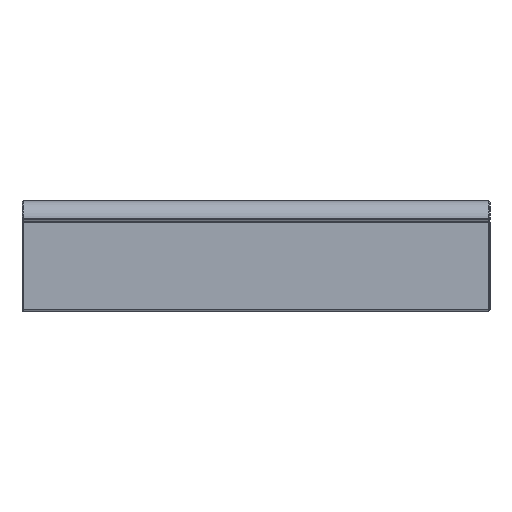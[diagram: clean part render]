
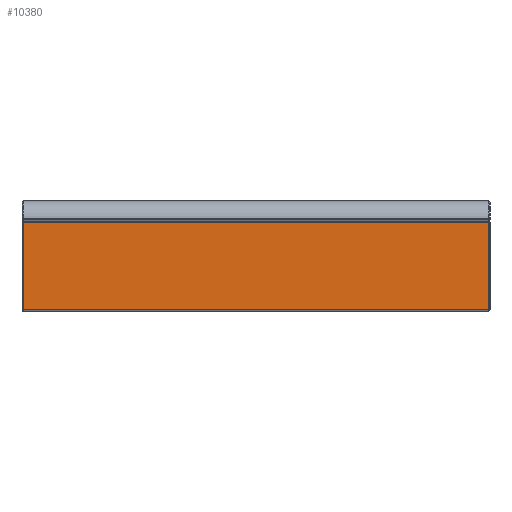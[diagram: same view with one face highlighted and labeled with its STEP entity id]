
A CAD part, left-side view. The second image highlights one B-rep face of the part: STEP entity #10380.
In plain terms, the highlighted planar face has unit normal (-1, 0, 0).
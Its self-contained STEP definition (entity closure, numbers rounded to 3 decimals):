
#2013=DIRECTION('',(0.,0.,1.));
#2014=VECTOR('',#2013,107.9);
#2015=CARTESIAN_POINT('',(-547.,576.5,-66.5));
#2016=LINE('',#2015,#2014);
#2020=DIRECTION('',(0.,1.,0.));
#2021=VECTOR('',#2020,575.);
#2022=CARTESIAN_POINT('',(-547.,1.5,41.4));
#2023=LINE('',#2022,#2021);
#2027=DIRECTION('',(0.,0.,-1.));
#2028=VECTOR('',#2027,107.9);
#2029=CARTESIAN_POINT('',(-547.,1.5,41.4));
#2030=LINE('',#2029,#2028);
#2034=DIRECTION('',(0.,-1.,0.));
#2035=VECTOR('',#2034,575.);
#2036=CARTESIAN_POINT('',(-547.,576.5,-66.5));
#2037=LINE('',#2036,#2035);
#2041=CARTESIAN_POINT('',(-547.,576.5,41.4));
#7821=CARTESIAN_POINT('',(-547.,1.5,41.4));
#7822=CARTESIAN_POINT('',(-547.,1.5,-66.5));
#7823=VERTEX_POINT('',#7821);
#7824=VERTEX_POINT('',#7822);
#7825=CARTESIAN_POINT('',(-547.,576.5,-66.5));
#7826=VERTEX_POINT('',#7825);
#7864=VERTEX_POINT('',#2041);
#10367=CARTESIAN_POINT('',(-547.,0.,-68.));
#10368=DIRECTION('',(-1.,0.,0.));
#10369=DIRECTION('',(0.,0.,1.));
#10370=AXIS2_PLACEMENT_3D('',#10367,#10368,#10369);
#10371=PLANE('',#10370);
#10373=ORIENTED_EDGE('',*,*,#10372,.T.);
#10375=ORIENTED_EDGE('',*,*,#10374,.F.);
#10376=ORIENTED_EDGE('',*,*,#10334,.T.);
#10377=ORIENTED_EDGE('',*,*,#10358,.F.);
#10378=EDGE_LOOP('',(#10373,#10375,#10376,#10377));
#10379=FACE_OUTER_BOUND('',#10378,.F.);
#10334=EDGE_CURVE('',#7823,#7824,#2030,.T.);
#10358=EDGE_CURVE('',#7826,#7824,#2037,.T.);
#10372=EDGE_CURVE('',#7826,#7864,#2016,.T.);
#10374=EDGE_CURVE('',#7823,#7864,#2023,.T.);
#10380=ADVANCED_FACE('',(#10379),#10371,.T.);
